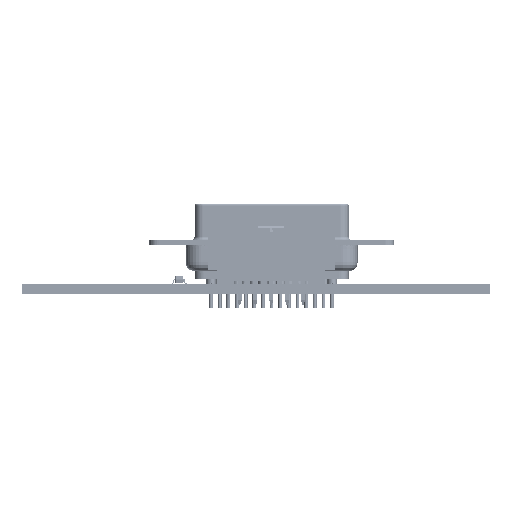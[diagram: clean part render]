
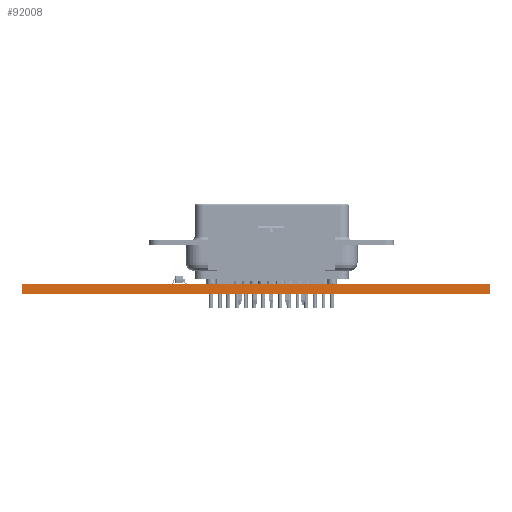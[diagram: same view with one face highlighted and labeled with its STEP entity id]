
A CAD part, left-side view. The second image highlights one B-rep face of the part: STEP entity #92008.
In plain terms, the highlighted planar face has unit normal (-1, 0, 0).
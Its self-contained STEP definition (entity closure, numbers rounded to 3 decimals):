
#4911 = CARTESIAN_POINT ( 'NONE',  ( 0., 0., 0. ) ) ;
#13635 = DIRECTION ( 'NONE',  ( 1., 0., 0. ) ) ;
#19398 = VECTOR ( 'NONE', #102822, 1000. ) ;
#21827 = CARTESIAN_POINT ( 'NONE',  ( 0., 0., -1.6 ) ) ;
#25242 = CARTESIAN_POINT ( 'NONE',  ( 0., 75., -1.6 ) ) ;
#30495 = ORIENTED_EDGE ( 'NONE', *, *, #72718, .F. ) ;
#37317 = LINE ( 'NONE', #21827, #207560 ) ;
#40846 = DIRECTION ( 'NONE',  ( 0., 1., 0. ) ) ;
#66826 = ORIENTED_EDGE ( 'NONE', *, *, #158674, .T. ) ;
#67673 = EDGE_CURVE ( 'NONE', #71985, #198656, #134985, .T. ) ;
#68330 = DIRECTION ( 'NONE',  ( 0., 1., 0. ) ) ;
#70018 = CARTESIAN_POINT ( 'NONE',  ( 0., 75., 0. ) ) ;
#71985 = VERTEX_POINT ( 'NONE', #4911 ) ;
#72718 = EDGE_CURVE ( 'NONE', #71985, #188252, #97515, .T. ) ;
#78929 = VECTOR ( 'NONE', #177006, 1000. ) ;
#79673 = ORIENTED_EDGE ( 'NONE', *, *, #67673, .T. ) ;
#92008 = ADVANCED_FACE ( 'NONE', ( #104024 ), #181152, .F. ) ;
#92136 = EDGE_CURVE ( 'NONE', #188252, #156674, #37317, .T. ) ;
#97515 = LINE ( 'NONE', #130818, #107811 ) ;
#102822 = DIRECTION ( 'NONE',  ( 0., 1., 0. ) ) ;
#104024 = FACE_OUTER_BOUND ( 'NONE', #113953, .T. ) ;
#107811 = VECTOR ( 'NONE', #110654, 1000. ) ;
#110654 = DIRECTION ( 'NONE',  ( 0., 0., -1. ) ) ;
#113953 = EDGE_LOOP ( 'NONE', ( #79673, #66826, #179855, #30495 ) ) ;
#123084 = AXIS2_PLACEMENT_3D ( 'NONE', #231138, #13635, #68330 ) ;
#123552 = LINE ( 'NONE', #70018, #78929 ) ;
#130818 = CARTESIAN_POINT ( 'NONE',  ( 0., 0., 0. ) ) ;
#131291 = CARTESIAN_POINT ( 'NONE',  ( 0., 0., -1.6 ) ) ;
#134985 = LINE ( 'NONE', #209793, #19398 ) ;
#155104 = CARTESIAN_POINT ( 'NONE',  ( 0., 75., 0. ) ) ;
#156674 = VERTEX_POINT ( 'NONE', #25242 ) ;
#158674 = EDGE_CURVE ( 'NONE', #198656, #156674, #123552, .T. ) ;
#177006 = DIRECTION ( 'NONE',  ( 0., 0., -1. ) ) ;
#179855 = ORIENTED_EDGE ( 'NONE', *, *, #92136, .F. ) ;
#181152 = PLANE ( 'NONE',  #123084 ) ;
#188252 = VERTEX_POINT ( 'NONE', #131291 ) ;
#198656 = VERTEX_POINT ( 'NONE', #155104 ) ;
#207560 = VECTOR ( 'NONE', #40846, 1000. ) ;
#209793 = CARTESIAN_POINT ( 'NONE',  ( 0., 0., 0. ) ) ;
#231138 = CARTESIAN_POINT ( 'NONE',  ( 0., 0., 0. ) ) ;
